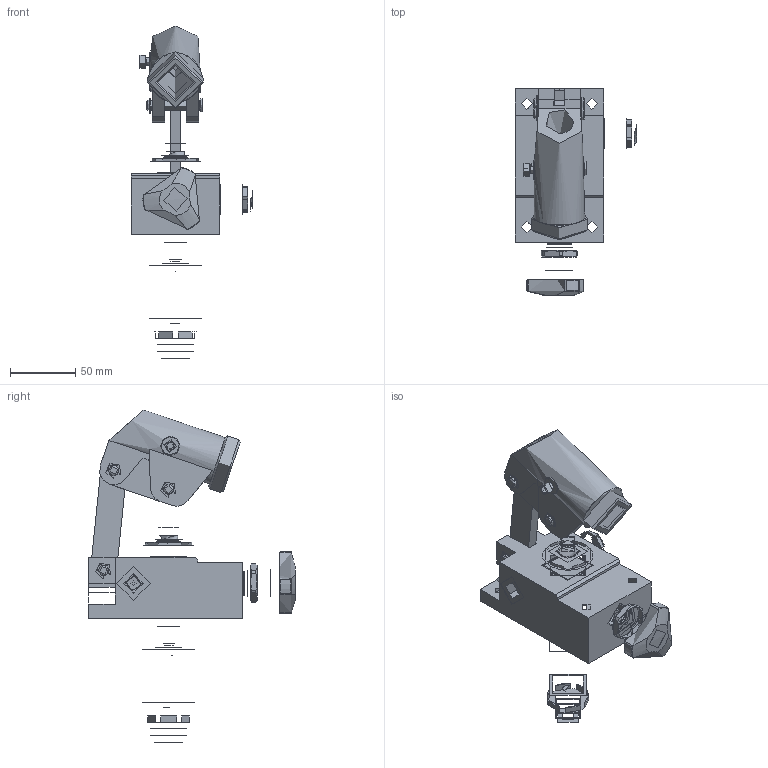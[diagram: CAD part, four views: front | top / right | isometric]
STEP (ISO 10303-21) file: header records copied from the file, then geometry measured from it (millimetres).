
FILE_DESCRIPTION(/* description */ ('Unknown'),/* implementation_level */ '2;1');
FILE_NAME(/* name */ 'ALHPT-V',/* time_stamp */ '2024-11-28T14:11:22+01:00',/* author */ ('Unknown'),/* organization */ ('Unknown'),/* preprocessor_version */ 'ST-DEVELOPER v19.4',/* originating_system */ 'Solid Edge',/* authorisation */ 'Unknown');
FILE_SCHEMA (('AP203_CONFIGURATION_CONTROLLED_3D_DESIGN_OF_MECHANICAL_PARTS_AND_ASSEMBLIES_MIM_LF { 1 0 10303 203 3 1 4 }','AP242_MANAGED_MODEL_BASED_3D_ENGINEERING_MIM_LF { 1 0 10303 442 3 1 4 }','AUTOMOTIVE_DESIGN {1 0 10303 214 3 1 1}'));
Length unit declared in the file: millimetre
Products named in the file (1): ALHPT-V
Bounding box: 93.42 x 158.84 x 255.07 mm (x, y, z)
Volume: 958194.7 mm3; surface area: 129962.5 mm2
Topology: 6 solids, 6 shells, 525 faces, 1107 edges, 778 vertices
Faces by surface type: plane 211, cylinder 208, cone 72, torus 24, bspline 5, sphere 5
Full cylindrical faces by diameter (mm): 3.996 x3, 4.995 x6, 5.994 x5, 6.993 x1, 7.792 x6, 7.992 x6, 8.042 x2, 8.092 x4, 8.368 x2, 8.591 x4, 9.99 x6, 10.489 x1, 10.989 x4, 13.486 x1, 13.536 x1, 13.686 x1, 13.986 x4, 14.486 x1, 14.935 x4, 15.235 x2, 15.285 x1, 15.784 x1, 16.483 x1, 16.983 x2, 17.982 x4, 18.382 x1, 18.482 x1, 19.98 x1, 21.978 x1, 22.977 x2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
Entity records: 18585 total; most frequent: CARTESIAN_POINT 4215, DIRECTION 2491, ORIENTED_EDGE 2086, EDGE_CURVE 1043, AXIS2_PLACEMENT_3D 1042, FACE_BOUND 803, EDGE_LOOP 801, VERTEX_POINT 762
